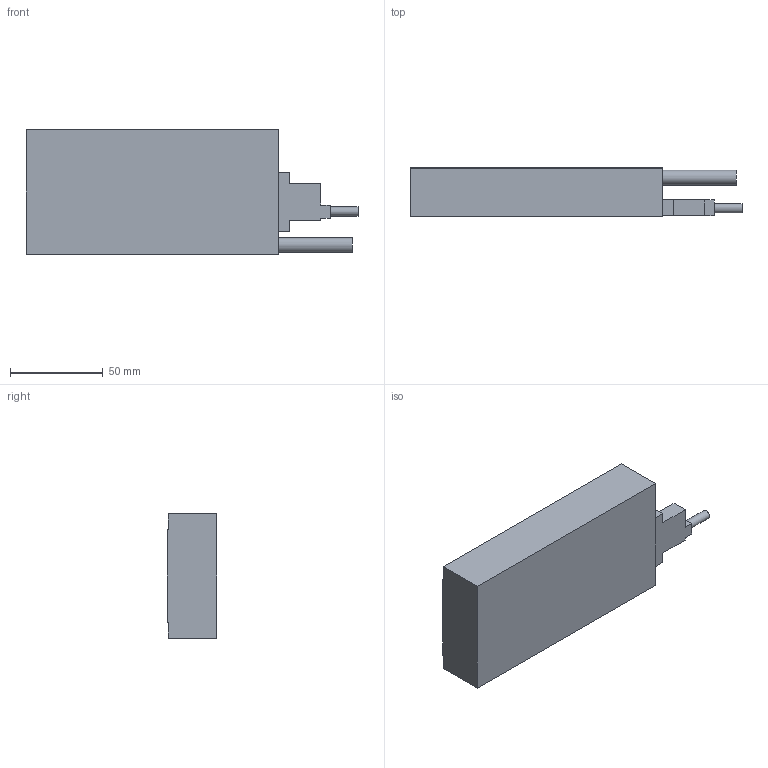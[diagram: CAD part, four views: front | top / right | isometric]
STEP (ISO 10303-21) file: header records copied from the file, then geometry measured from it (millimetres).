
FILE_DESCRIPTION(/* description */ ('STEP AP242 Edition 2','CAx-IF Rec.Pracs.---Representation and Presentation of Product Manufacturing Information (PMI)---4.0---2014-10-13','CAx-IF Rec.Pracs.---3D Tessellated Geometry---0.4---2014-09-14','2;1','CAx-IF Rec.Pracs.---User Defined Attributes---1.5---2016-08-15'),/* implementation_level */ '2;1');
FILE_NAME(/* name */ 'CM20S (3)',/* time_stamp */ '2026-04-13T00:44:25Z',/* author */ (''),/* organization */ (''),/* preprocessor_version */ 'ST-DEVELOPER v20',/* originating_system */ 'ONSHAPE BY PTC INC, 1.213',/* authorisation */ ' ');
FILE_SCHEMA (('AP242_MANAGED_MODEL_BASED_3D_ENGINEERING_MIM_LF { 1 0 10303 442 3 1 4 }'));
Length unit declared in the file: metre
Products named in the file (1): CM20S
Bounding box: 178.5 x 26.5 x 67 mm (x, y, z)
Volume: 244665.5 mm3; surface area: 33462.1 mm2
Topology: 1 solids, 2 shells, 64 faces, 156 edges, 101 vertices
Faces by surface type: plane 35, cylinder 19, cone 10
Full cylindrical faces by diameter (mm): 2.5 x2, 3.4 x2, 4.2 x8, 4.9 x2, 8 x1
Entity records: 1694 total; most frequent: DIRECTION 288, CARTESIAN_POINT 283, ORIENTED_EDGE 238, EDGE_CURVE 119, FACE_BOUND 104, AXIS2_PLACEMENT_3D 104, VERTEX_POINT 99, EDGE_LOOP 94
